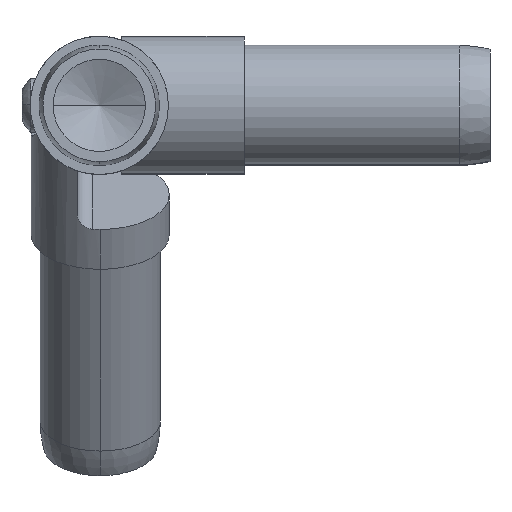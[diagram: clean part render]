
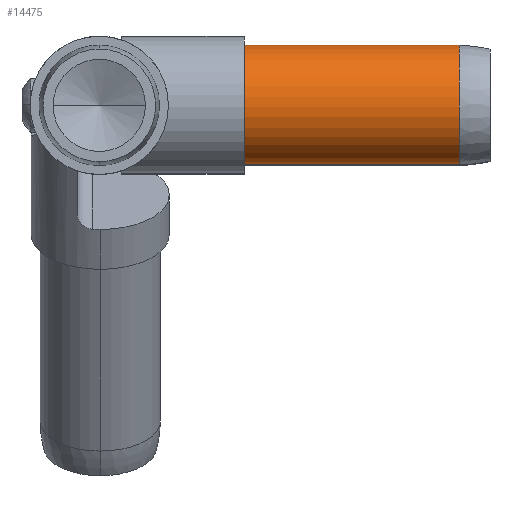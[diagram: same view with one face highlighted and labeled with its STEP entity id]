
A CAD part, left-side view. The second image highlights one B-rep face of the part: STEP entity #14475.
In plain terms, the highlighted cylindrical face has radius 12.446 mm (diameter 24.892 mm), a partial arc.
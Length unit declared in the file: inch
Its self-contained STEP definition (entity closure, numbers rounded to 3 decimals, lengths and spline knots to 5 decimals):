
#33 = FACE_OUTER_BOUND ( 'NONE', #7003, .T. ) ;
#500 = ORIENTED_EDGE ( 'NONE', *, *, #10904, .T. ) ;
#698 = DIRECTION ( 'NONE',  ( 0., -1., 0. ) ) ;
#2358 = CARTESIAN_POINT ( 'NONE',  ( 0.64226, -1.51858, -2.67201 ) ) ;
#2574 = CARTESIAN_POINT ( 'NONE',  ( 0.78604, -1.76858, -1.70261 ) ) ;
#2616 = VECTOR ( 'NONE', #10852, 39.37008 ) ;
#3010 = CARTESIAN_POINT ( 'NONE',  ( 0.71415, -1.76858, -2.18731 ) ) ;
#3376 = AXIS2_PLACEMENT_3D ( 'NONE', #7925, #698, #9112 ) ;
#4003 = DIRECTION ( 'NONE',  ( 0., -1., 0. ) ) ;
#4241 = DIRECTION ( 'NONE',  ( 0., -1., 0. ) ) ;
#4498 = CIRCLE ( 'NONE', #3376, 0.49 ) ;
#4691 = CIRCLE ( 'NONE', #6126, 0.49 ) ;
#6126 = AXIS2_PLACEMENT_3D ( 'NONE', #11064, #4003, #12252 ) ;
#6975 = LINE ( 'NONE', #8820, #13150 ) ;
#7003 = EDGE_LOOP ( 'NONE', ( #10423, #500, #10680, #11136 ) ) ;
#7414 = CARTESIAN_POINT ( 'NONE',  ( 0.64226, 0.23142, -2.67201 ) ) ;
#7925 = CARTESIAN_POINT ( 'NONE',  ( 0.71415, -1.51858, -2.18731 ) ) ;
#8820 = CARTESIAN_POINT ( 'NONE',  ( 0.64226, -1.76858, -2.67201 ) ) ;
#8974 = LINE ( 'NONE', #2574, #2616 ) ;
#9021 = DIRECTION ( 'NONE',  ( 0.147, 0., 0.989 ) ) ;
#9112 = DIRECTION ( 'NONE',  ( 0.147, 0., 0.989 ) ) ;
#9932 = DIRECTION ( 'NONE',  ( 0., -1., 0. ) ) ;
#10155 = CARTESIAN_POINT ( 'NONE',  ( 0.78604, -1.51858, -1.70261 ) ) ;
#10329 = CARTESIAN_POINT ( 'NONE',  ( 0.78604, 0.23142, -1.70261 ) ) ;
#10375 = VERTEX_POINT ( 'NONE', #2358 ) ;
#10423 = ORIENTED_EDGE ( 'NONE', *, *, #11518, .T. ) ;
#10680 = ORIENTED_EDGE ( 'NONE', *, *, #11730, .F. ) ;
#10852 = DIRECTION ( 'NONE',  ( 0., -1., 0. ) ) ;
#10872 = CYLINDRICAL_SURFACE ( 'NONE', #13224, 0.49 ) ;
#10904 = EDGE_CURVE ( 'NONE', #14763, #10375, #6975, .T. ) ;
#11064 = CARTESIAN_POINT ( 'NONE',  ( 0.71415, 0.23142, -2.18731 ) ) ;
#11136 = ORIENTED_EDGE ( 'NONE', *, *, #12989, .F. ) ;
#11518 = EDGE_CURVE ( 'NONE', #12794, #14763, #4691, .T. ) ;
#11730 = EDGE_CURVE ( 'NONE', #13335, #10375, #4498, .T. ) ;
#12252 = DIRECTION ( 'NONE',  ( 0.147, 0., 0.989 ) ) ;
#12794 = VERTEX_POINT ( 'NONE', #10329 ) ;
#12989 = EDGE_CURVE ( 'NONE', #12794, #13335, #8974, .T. ) ;
#13150 = VECTOR ( 'NONE', #9932, 39.37008 ) ;
#13224 = AXIS2_PLACEMENT_3D ( 'NONE', #3010, #4241, #9021 ) ;
#13335 = VERTEX_POINT ( 'NONE', #10155 ) ;
#14475 = ADVANCED_FACE ( 'NONE', ( #33 ), #10872, .T. ) ;
#14763 = VERTEX_POINT ( 'NONE', #7414 ) ;
